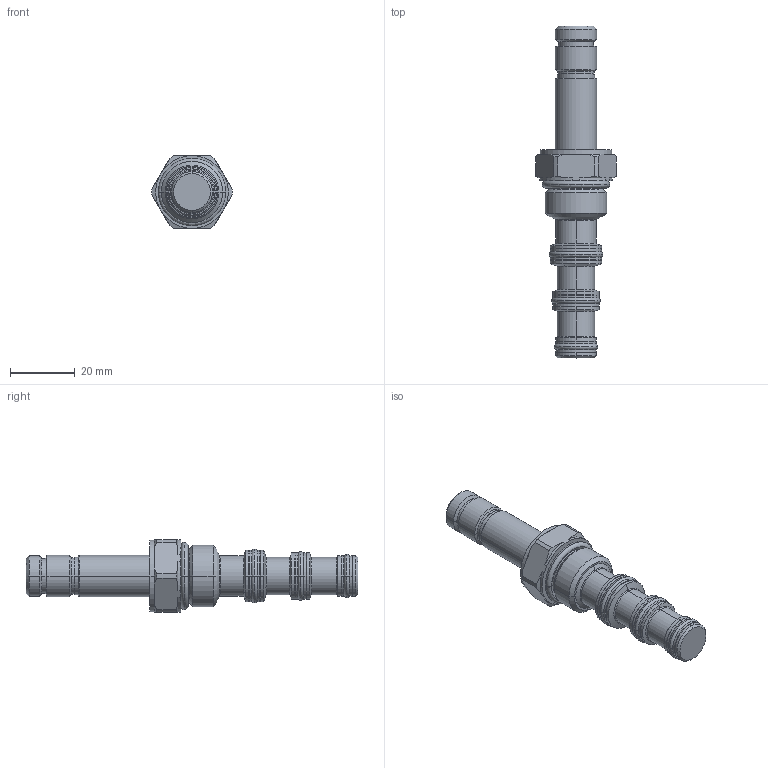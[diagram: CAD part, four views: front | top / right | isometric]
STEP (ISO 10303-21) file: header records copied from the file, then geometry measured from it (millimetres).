
FILE_DESCRIPTION((''),'2;1');
FILE_NAME('5007000_SW0002','2009-02-24T',('JCS'),(''),'PRO/ENGINEER BY PARAMETRIC TECHNOLOGY CORPORATION, 2008010','PRO/ENGINEER BY PARAMETRIC TECHNOLOGY CORPORATION, 2008010','');
FILE_SCHEMA(('CONFIG_CONTROL_DESIGN'));
Length unit declared in the file: inch
Products named in the file (1): 5007000_SW0002
Bounding box: 24.94 x 102.26 x 22.23 mm (x, y, z)
Volume: 17397.1 mm3; surface area: 7918.6 mm2
Topology: 4 solids, 4 shells, 231 faces, 512 edges, 302 vertices
Faces by surface type: cylinder 82, cone 54, torus 36, revolution 32, plane 27
Entity records: 7012 total; most frequent: CARTESIAN_POINT 1733, DIRECTION 1194, ORIENTED_EDGE 1024, EDGE_CURVE 512, AXIS2_PLACEMENT_3D 507, CIRCLE 308, VERTEX_POINT 302, EDGE_LOOP 250
